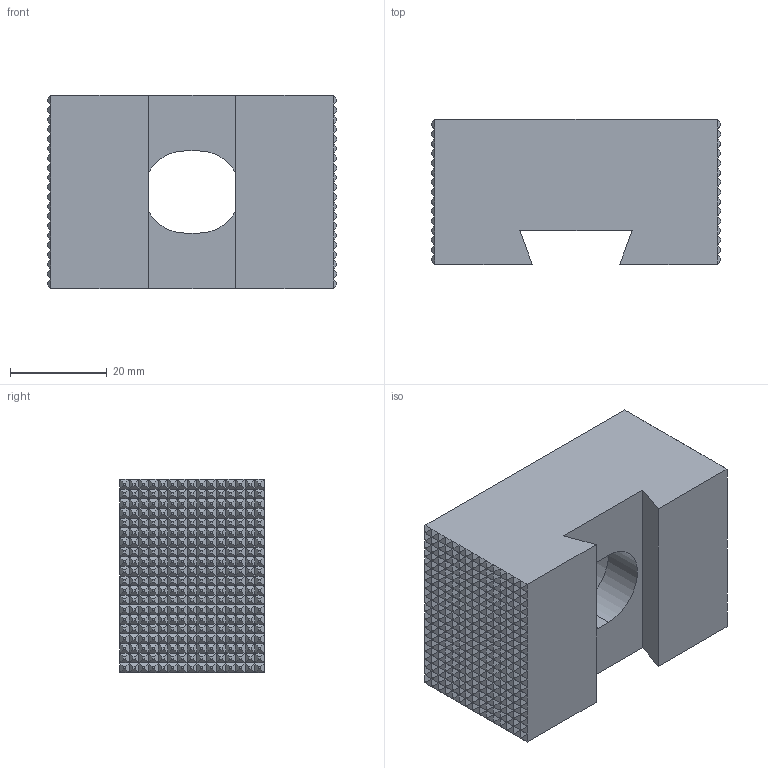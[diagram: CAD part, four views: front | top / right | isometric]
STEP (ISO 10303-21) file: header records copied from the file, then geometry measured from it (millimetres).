
FILE_DESCRIPTION((''),'2;1');
FILE_NAME('FG_WH_WEDCL_0SSJ3NP001','2026-06-05T10:30:35',('Admin'),(''),'CREO PARAMETRIC BY PTC INC, 2025010','CREO PARAMETRIC BY PTC INC, 2025010','');
FILE_SCHEMA(('CONFIG_CONTROL_DESIGN'));
Products named in the file (1): FG_WH_WEDCL_0SSJ3NP001
Bounding box: 60 x 30 x 40 mm (x, y, z)
Volume: 53994.4 mm3; surface area: 13149.5 mm2
Topology: 1 solids, 1 shells, 3025 faces, 6126 edges, 3104 vertices
Faces by surface type: plane 3017, cylinder 4, cone 4
Entity records: 73354 total; most frequent: CARTESIAN_POINT 12255, ORIENTED_EDGE 12252, DIRECTION 12188, EDGE_CURVE 6126, VECTOR 6114, LINE 6114, VERTEX_POINT 3104, AXIS2_PLACEMENT_3D 3037
